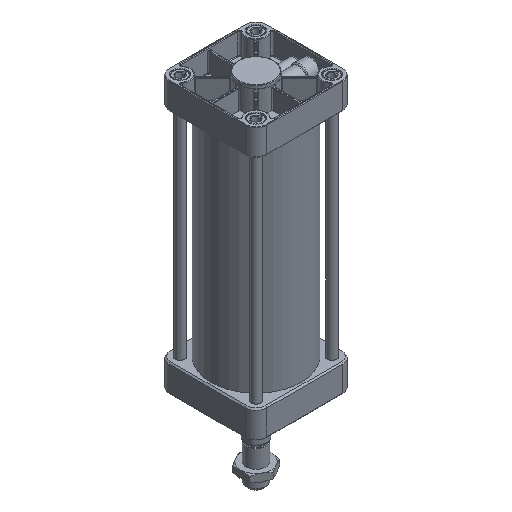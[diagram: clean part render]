
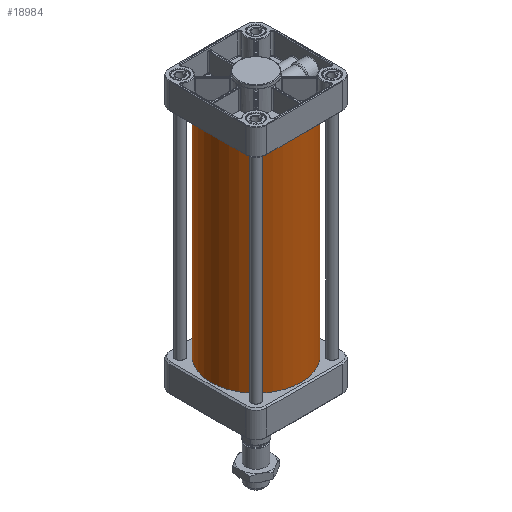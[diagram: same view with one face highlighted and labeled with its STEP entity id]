
A CAD part, isometric view. The second image highlights one B-rep face of the part: STEP entity #18984.
In plain terms, the highlighted cylindrical face has radius 83.5 mm (diameter 167 mm), a full revolution.
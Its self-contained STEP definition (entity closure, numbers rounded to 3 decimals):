
#1809=LINE('',#36539,#2860);
#2860=VECTOR('',#31126,1000.);
#3911=ORIENTED_EDGE('',*,*,#9881,.T.);
#3912=ORIENTED_EDGE('',*,*,#9882,.T.);
#3913=ORIENTED_EDGE('',*,*,#9883,.T.);
#3914=ORIENTED_EDGE('',*,*,#9882,.F.);
#9881=EDGE_CURVE('',#12866,#12866,#14748,.T.);
#9882=EDGE_CURVE('',#12866,#12867,#1809,.T.);
#9883=EDGE_CURVE('',#12867,#12867,#14749,.T.);
#12866=VERTEX_POINT('',#36538);
#12867=VERTEX_POINT('',#36540);
#14748=CIRCLE('',#28940,83.5);
#14749=CIRCLE('',#28941,83.5);
#15781=EDGE_LOOP('',(#3911,#3912,#3913,#3914));
#17176=FACE_BOUND('',#15781,.T.);
#18571=CYLINDRICAL_SURFACE('',#28939,83.5);
#18984=ADVANCED_FACE('',(#17176),#18571,.T.);
#28939=AXIS2_PLACEMENT_3D('',#36536,#31122,#31123);
#28940=AXIS2_PLACEMENT_3D('',#36537,#31124,#31125);
#28941=AXIS2_PLACEMENT_3D('',#36541,#31127,#31128);
#31122=DIRECTION('',(0.,0.,1.));
#31123=DIRECTION('',(-1.,0.,0.));
#31124=DIRECTION('',(0.,0.,-1.));
#31125=DIRECTION('',(-1.,0.,0.));
#31126=DIRECTION('',(0.,0.,-1.));
#31127=DIRECTION('',(0.,0.,1.));
#31128=DIRECTION('',(-1.,0.,0.));
#36536=CARTESIAN_POINT('',(0.,0.,0.));
#36537=CARTESIAN_POINT('',(0.,0.,52.5));
#36538=CARTESIAN_POINT('',(83.5,0.,52.5));
#36539=CARTESIAN_POINT('',(83.5,0.,0.));
#36540=CARTESIAN_POINT('',(83.5,0.,-347.5));
#36541=CARTESIAN_POINT('',(0.,0.,-347.5));
